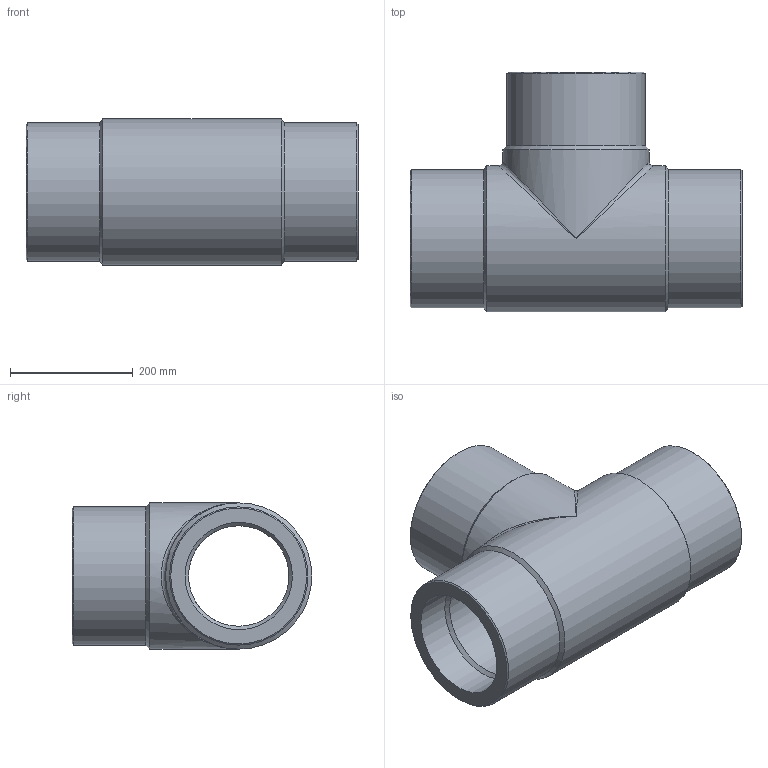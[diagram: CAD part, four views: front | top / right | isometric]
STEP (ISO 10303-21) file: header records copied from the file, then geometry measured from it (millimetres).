
FILE_DESCRIPTION(/* description */ ('Unknown'),/* implementation_level */ '2;1');
FILE_NAME(/* name */ 'TP225G',/* time_stamp */ '2021-07-19T11:41:02+02:00',/* author */ ('Unknown'),/* organization */ ('Unknown'),/* preprocessor_version */ 'ST-DEVELOPER v16.7',/* originating_system */ 'Solid Edge',/* authorisation */ 'Unknown');
FILE_SCHEMA (('AUTOMOTIVE_DESIGN {1 0 10303 214 3 1 1}'));
Length unit declared in the file: millimetre
Products named in the file (1): TP225G
Bounding box: 540 x 390 x 238 mm (x, y, z)
Volume: 13776294.7 mm3; surface area: 901465.7 mm2
Topology: 1 solids, 1 shells, 24 faces, 58 edges, 31 vertices
Faces by surface type: cylinder 10, cone 9, plane 3, bspline 2
Full cylindrical faces by diameter (mm): 163.4 x2, 174.6 x3, 225 x3, 238 x2
Entity records: 648 total; most frequent: CARTESIAN_POINT 189, DIRECTION 100, ORIENTED_EDGE 54, AXIS2_PLACEMENT_3D 50, EDGE_LOOP 48, FACE_BOUND 48, EDGE_CURVE 27, VERTEX_POINT 25
